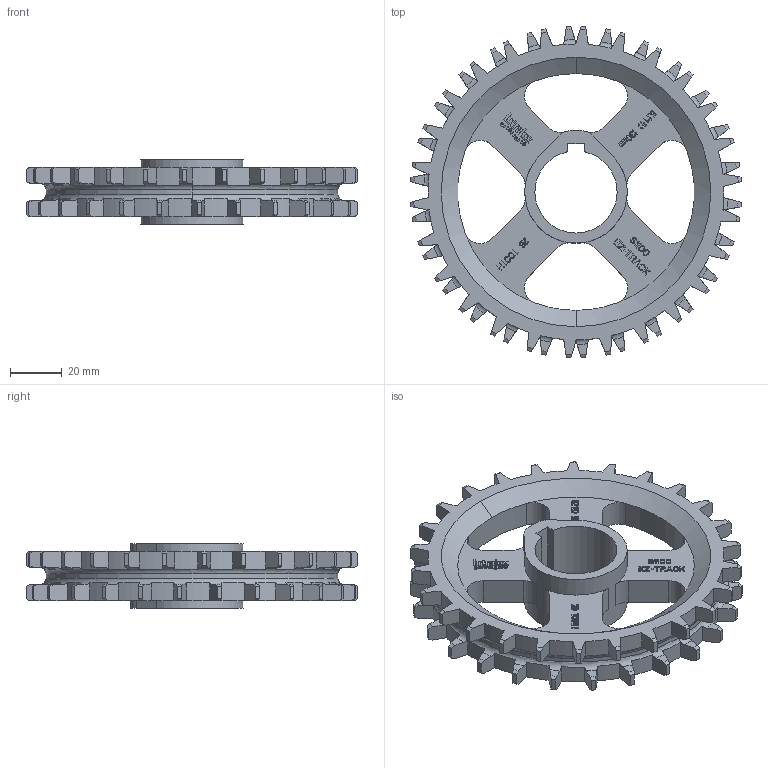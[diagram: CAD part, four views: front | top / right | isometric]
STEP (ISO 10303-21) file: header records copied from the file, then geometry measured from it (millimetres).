
FILE_DESCRIPTION((''),'2;1');
FILE_NAME('S1100_EZ_TRACK_CLEAN_51X1_PILOT','2008-12-12T',('jmumphre'),(''),'PRO/ENGINEER BY PARAMETRIC TECHNOLOGY CORPORATION, 2008150','PRO/ENGINEER BY PARAMETRIC TECHNOLOGY CORPORATION, 2008150','');
FILE_SCHEMA(('CONFIG_CONTROL_DESIGN'));
Length unit declared in the file: inch
Products named in the file (1): S1100_EZ_TRACK_CLEAN_51X1_PILOT
Bounding box: 127.95 x 127.99 x 24.89 mm (x, y, z)
Volume: 103602.4 mm3; surface area: 35319.9 mm2
Topology: 1 solids, 1 shells, 1459 faces, 4189 edges, 2786 vertices
Faces by surface type: plane 1232, cylinder 167, cone 56, torus 4
Entity records: 47965 total; most frequent: CARTESIAN_POINT 9714, ORIENTED_EDGE 8378, DIRECTION 7313, EDGE_CURVE 4189, VECTOR 3455, LINE 3455, VERTEX_POINT 2786, AXIS2_PLACEMENT_3D 1929
